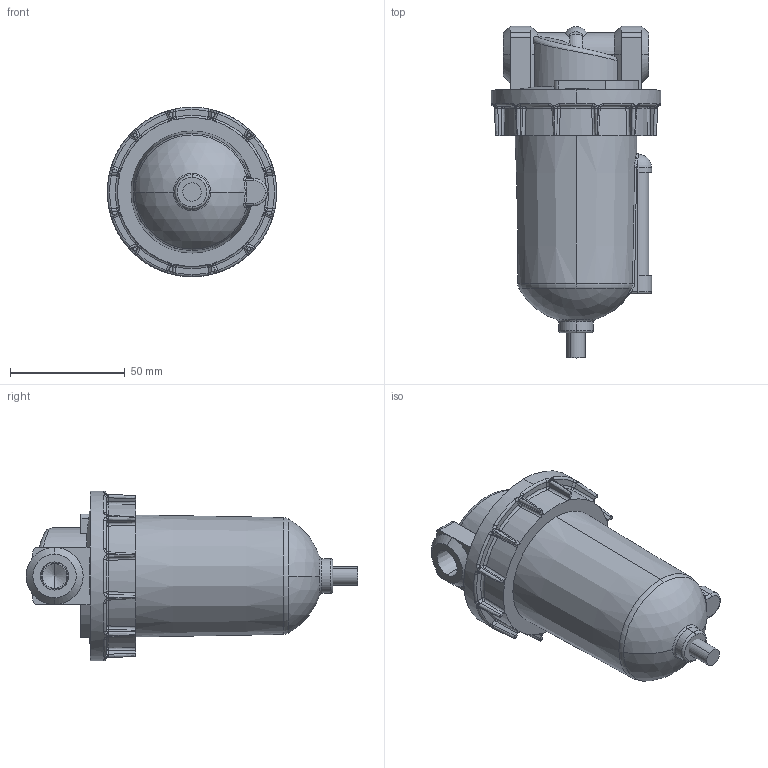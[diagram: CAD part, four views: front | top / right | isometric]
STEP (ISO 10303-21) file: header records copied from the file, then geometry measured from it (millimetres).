
FILE_DESCRIPTION (( 'STEP AP203' ), '1' );
FILE_NAME ('F602W-02#YB#.STEP', '2016-01-14T18:02:16', ( '' ), ( '' ), 'SwSTEP 2.0', 'SolidWorks 2014', '' );
FILE_SCHEMA (( 'CONFIG_CONTROL_DESIGN' ));
Length unit declared in the file: millimetre
Products named in the file (5): L606-W-02-下半部; F602W-02#YB#; F602-02-1; L606W-02-刻度計; L606-W-06-5
Assembly tree (4 placements, depth 2):
  F602W-02#YB#
    F602-02-1
    L606-W-06-5
    L606-W-02-下半部
    L606W-02-刻度計
Bounding box: 74 x 144.96 x 74 mm (x, y, z)
Volume: 276110 mm3; surface area: 38791.8 mm2
Topology: 4 solids, 4 shells, 373 faces, 929 edges, 541 vertices
Faces by surface type: bspline 107, plane 89, cylinder 74, torus 40, sphere 33, cone 30
Entity records: 14522 total; most frequent: CARTESIAN_POINT 6209, ORIENTED_EDGE 1802, DIRECTION 1468, EDGE_CURVE 901, AXIS2_PLACEMENT_3D 631, VERTEX_POINT 541, EDGE_LOOP 378, FACE_OUTER_BOUND 373
